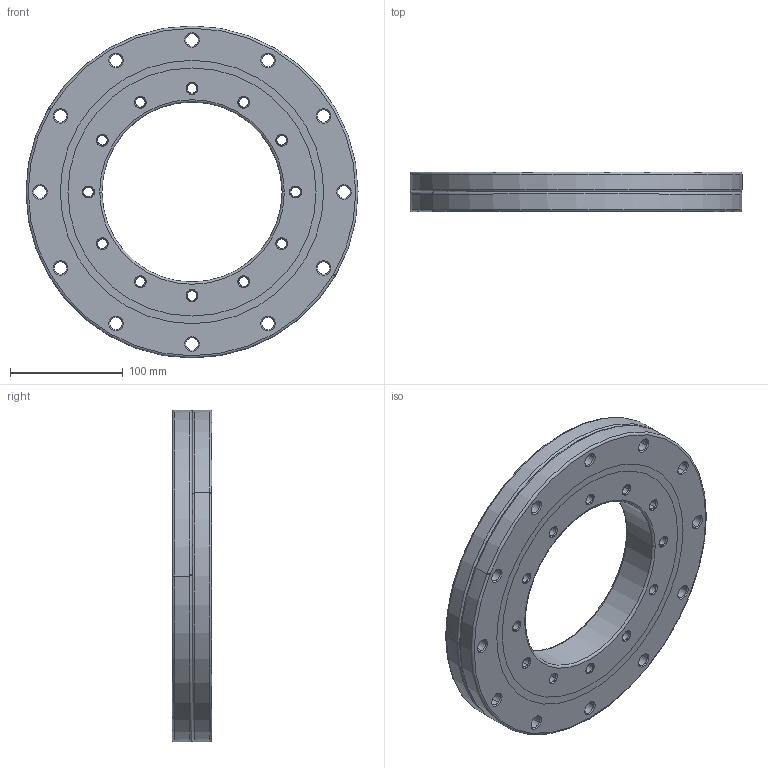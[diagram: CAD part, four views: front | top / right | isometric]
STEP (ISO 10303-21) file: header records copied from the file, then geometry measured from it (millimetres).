
FILE_DESCRIPTION(('no description'),'unknown implementation level');
FILE_NAME('CRBD16035A_51.stp',' ',('HIWIN GmbH'),('CADClick - KiM GmbH - www.kimweb.de'),'unknown preprocess','ACIS','unknown authorization');
FILE_SCHEMA(('automotive_design'));
Length unit declared in the file: millimetre
Products named in the file (29): CRBD16035A_1; CRBD16035A_2; CRBD16035A_3; CRBD16035A_4; CRBD16035A_5; CRBD16035A_6; CRBD16035A_7; CRBD16035A_8; CRBD16035A_9; CRBD16035A_10; CRBD16035A_11; CRBD16035A_12; CRBD16035A_13; CRBD16035A_14; CRBD16035A_15; CRBD16035A_16; CRBD16035A_17; CRBD16035A_18; CRBD16035A_19; CRBD16035A_20; CRBD16035A_21; CRBD16035A_22; CRBD16035A_23; CRBD16035A_24; CRBD16035A_25; CRBD16035A_26; CRBD16035A_27; CRBD16035A_28; CRBD16035A
Bounding box: 295 x 35 x 295 mm (x, y, z)
Volume: 1445200.5 mm3; surface area: 291359.5 mm2
Topology: 5 solids, 29 shells, 450 faces, 1152 edges, 748 vertices
Faces by surface type: cone 264, cylinder 140, torus 24, plane 22
Entity records: 26905 total; most frequent: DIRECTION 2834, CARTESIAN_POINT 2379, ORIENTED_EDGE 2208, STYLED_ITEM 2187, PRESENTATION_STYLE_ASSIGNMENT 2187, COLOUR_RGB 2187, AXIS2_PLACEMENT_3D 1203, EDGE_CURVE 1152
